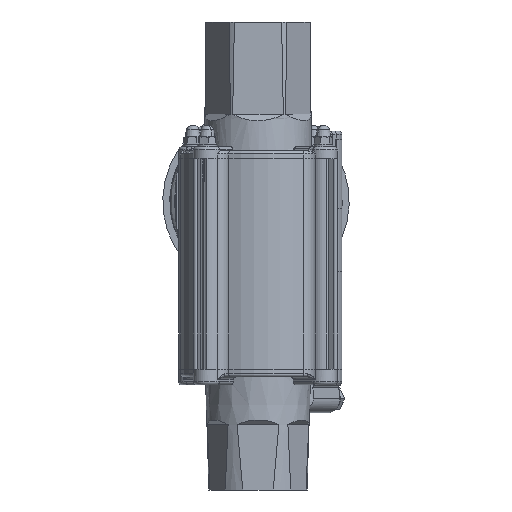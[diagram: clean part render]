
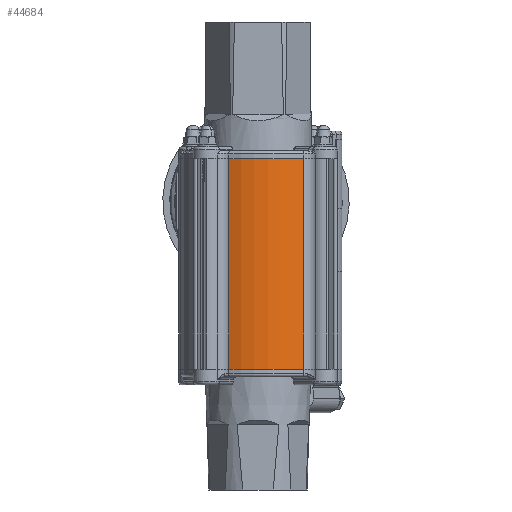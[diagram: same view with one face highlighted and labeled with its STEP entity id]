
A CAD part, front view. The second image highlights one B-rep face of the part: STEP entity #44684.
In plain terms, the highlighted cylindrical face has radius 39.1 mm (diameter 78.2 mm), a partial arc.
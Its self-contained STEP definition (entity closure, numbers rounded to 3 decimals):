
#452 = AXIS2_PLACEMENT_3D ( 'NONE', #7786, #52908, #14268 ) ;
#2506 = DIRECTION ( 'NONE',  ( 1., 0., 0. ) ) ;
#2655 = AXIS2_PLACEMENT_3D ( 'NONE', #79753, #41124, #2506 ) ;
#3948 = EDGE_CURVE ( 'NONE', #77342, #47165, #51710, .T. ) ;
#6497 = FACE_OUTER_BOUND ( 'NONE', #15153, .T. ) ;
#7017 = EDGE_CURVE ( 'NONE', #47165, #12103, #42423, .T. ) ;
#7767 = VECTOR ( 'NONE', #80348, 1000. ) ;
#7786 = CARTESIAN_POINT ( 'NONE',  ( 0., 0., 106. ) ) ;
#12103 = VERTEX_POINT ( 'NONE', #80584 ) ;
#13517 = ORIENTED_EDGE ( 'NONE', *, *, #79398, .F. ) ;
#14268 = DIRECTION ( 'NONE',  ( 1., 0., 0. ) ) ;
#15153 = EDGE_LOOP ( 'NONE', ( #13517, #16425, #15262, #44161 ) ) ;
#15262 = ORIENTED_EDGE ( 'NONE', *, *, #3948, .T. ) ;
#16033 = CARTESIAN_POINT ( 'NONE',  ( -14.725, -36.221, 106. ) ) ;
#16425 = ORIENTED_EDGE ( 'NONE', *, *, #32715, .T. ) ;
#16430 = CARTESIAN_POINT ( 'NONE',  ( 0., 0., 106. ) ) ;
#16433 = CARTESIAN_POINT ( 'NONE',  ( 23.18, -31.488, 106. ) ) ;
#24873 = LINE ( 'NONE', #16033, #7767 ) ;
#27850 = CIRCLE ( 'NONE', #452, 39.1 ) ;
#32713 = AXIS2_PLACEMENT_3D ( 'NONE', #16430, #35336, #61574 ) ;
#32715 = EDGE_CURVE ( 'NONE', #58186, #77342, #24873, .T. ) ;
#35336 = DIRECTION ( 'NONE',  ( 0., 0., -1. ) ) ;
#35687 = CARTESIAN_POINT ( 'NONE',  ( -14.725, -36.221, 106. ) ) ;
#40314 = CARTESIAN_POINT ( 'NONE',  ( -14.725, -36.221, 0. ) ) ;
#40431 = VECTOR ( 'NONE', #42119, 1000. ) ;
#41124 = DIRECTION ( 'NONE',  ( 0., 0., 1. ) ) ;
#42119 = DIRECTION ( 'NONE',  ( 0., 0., 1. ) ) ;
#42423 = LINE ( 'NONE', #16433, #40431 ) ;
#44161 = ORIENTED_EDGE ( 'NONE', *, *, #7017, .T. ) ;
#44684 = ADVANCED_FACE ( 'NONE', ( #6497 ), #49869, .T. ) ;
#47165 = VERTEX_POINT ( 'NONE', #77853 ) ;
#49869 = CYLINDRICAL_SURFACE ( 'NONE', #32713, 39.1 ) ;
#51710 = CIRCLE ( 'NONE', #2655, 39.1 ) ;
#52908 = DIRECTION ( 'NONE',  ( 0., 0., 1. ) ) ;
#58186 = VERTEX_POINT ( 'NONE', #35687 ) ;
#61574 = DIRECTION ( 'NONE',  ( -1., 0., 0. ) ) ;
#77342 = VERTEX_POINT ( 'NONE', #40314 ) ;
#77853 = CARTESIAN_POINT ( 'NONE',  ( 23.18, -31.488, 0. ) ) ;
#79398 = EDGE_CURVE ( 'NONE', #58186, #12103, #27850, .T. ) ;
#79753 = CARTESIAN_POINT ( 'NONE',  ( 0., 0., 0. ) ) ;
#80348 = DIRECTION ( 'NONE',  ( 0., 0., -1. ) ) ;
#80584 = CARTESIAN_POINT ( 'NONE',  ( 23.18, -31.488, 106. ) ) ;
